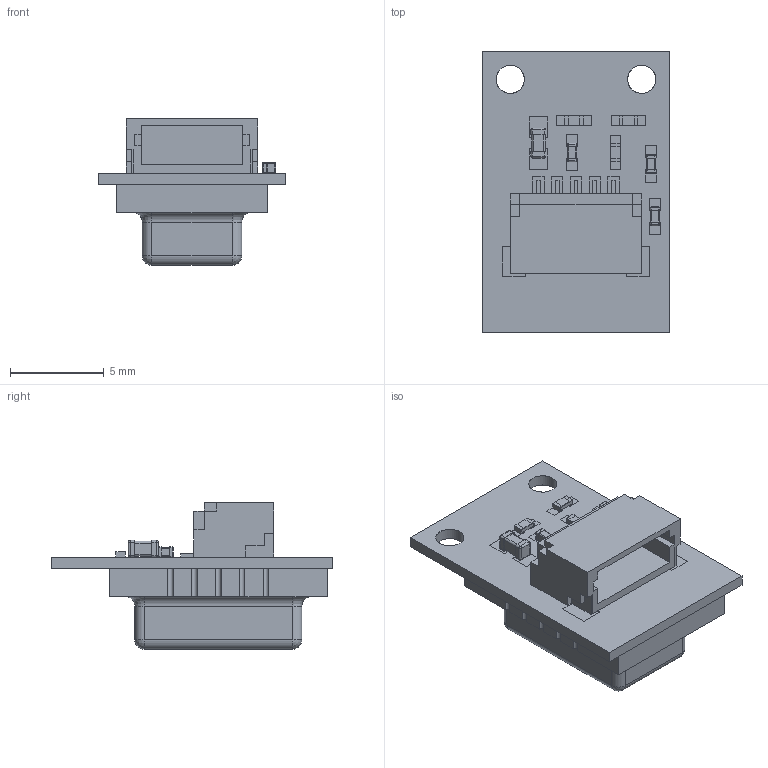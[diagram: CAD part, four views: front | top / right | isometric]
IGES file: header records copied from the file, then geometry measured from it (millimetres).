
Global section: file name: Filename.iges; native system: Open CASCADE 7.4; preprocessor: Open CASCADE IGES processor 7.4; date: 20200812.003849; units: millimetre
Bounding box: 10 x 15 x 7.79 mm (x, y, z)
Surface area: 1341.4 mm2 (no closed solid volume)
Topology: 0 solids, 0 shells, 1092 faces, 5802 edges, 8870 vertices
Faces by surface type: plane 826, revolution 266
